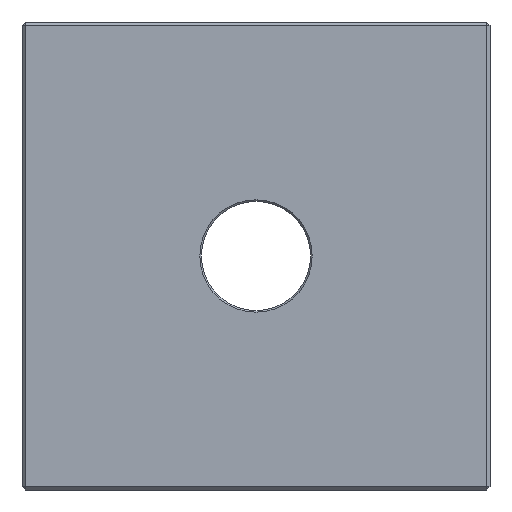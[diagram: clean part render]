
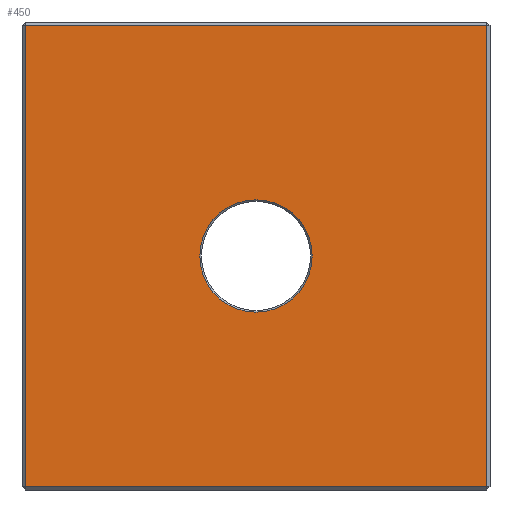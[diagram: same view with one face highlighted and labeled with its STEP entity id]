
A CAD part, left-side view. The second image highlights one B-rep face of the part: STEP entity #450.
In plain terms, the highlighted planar face has unit normal (-1, 0, 0).
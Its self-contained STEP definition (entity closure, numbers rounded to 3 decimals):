
#100 = VERTEX_POINT ( 'NONE', #801 ) ;
#114 = LINE ( 'NONE', #688, #683 ) ;
#118 = DIRECTION ( 'NONE',  ( 0., 0., -1. ) ) ;
#168 = VERTEX_POINT ( 'NONE', #1138 ) ;
#172 = ORIENTED_EDGE ( 'NONE', *, *, #1006, .T. ) ;
#180 = AXIS2_PLACEMENT_3D ( 'NONE', #435, #322, #1131 ) ;
#241 = LINE ( 'NONE', #433, #705 ) ;
#242 = CARTESIAN_POINT ( 'NONE',  ( 0., 29.8, 14.8 ) ) ;
#257 = AXIS2_PLACEMENT_3D ( 'NONE', #524, #710, #620 ) ;
#269 = DIRECTION ( 'NONE',  ( 0., 1., 0. ) ) ;
#272 = CIRCLE ( 'NONE', #180, 3.6 ) ;
#291 = CARTESIAN_POINT ( 'NONE',  ( 0., 15., 3.6 ) ) ;
#294 = VECTOR ( 'NONE', #118, 1000. ) ;
#302 = CARTESIAN_POINT ( 'NONE',  ( 0., 29.8, 15. ) ) ;
#315 = PLANE ( 'NONE',  #257 ) ;
#322 = DIRECTION ( 'NONE',  ( 1., 0., 0. ) ) ;
#350 = EDGE_CURVE ( 'NONE', #879, #100, #114, .T. ) ;
#363 = EDGE_LOOP ( 'NONE', ( #616, #794, #172, #966 ) ) ;
#389 = ORIENTED_EDGE ( 'NONE', *, *, #396, .T. ) ;
#396 = EDGE_CURVE ( 'NONE', #168, #707, #605, .T. ) ;
#406 = VERTEX_POINT ( 'NONE', #494 ) ;
#409 = FACE_BOUND ( 'NONE', #580, .T. ) ;
#433 = CARTESIAN_POINT ( 'NONE',  ( 0., 0.2, 15. ) ) ;
#435 = CARTESIAN_POINT ( 'NONE',  ( 0., 15., 0. ) ) ;
#450 = ADVANCED_FACE ( 'NONE', ( #409, #1127 ), #315, .F. ) ;
#494 = CARTESIAN_POINT ( 'NONE',  ( 0., 0.2, 14.8 ) ) ;
#524 = CARTESIAN_POINT ( 'NONE',  ( 0., 0., 15. ) ) ;
#552 = LINE ( 'NONE', #822, #815 ) ;
#580 = EDGE_LOOP ( 'NONE', ( #777, #389 ) ) ;
#605 = CIRCLE ( 'NONE', #893, 3.6 ) ;
#616 = ORIENTED_EDGE ( 'NONE', *, *, #724, .T. ) ;
#620 = DIRECTION ( 'NONE',  ( 0., 0., -1. ) ) ;
#643 = EDGE_CURVE ( 'NONE', #406, #874, #552, .T. ) ;
#669 = DIRECTION ( 'NONE',  ( 0., -1., 0. ) ) ;
#683 = VECTOR ( 'NONE', #669, 1000. ) ;
#688 = CARTESIAN_POINT ( 'NONE',  ( 0., 0., -14.8 ) ) ;
#693 = CARTESIAN_POINT ( 'NONE',  ( 0., 29.8, -14.8 ) ) ;
#705 = VECTOR ( 'NONE', #899, 1000. ) ;
#707 = VERTEX_POINT ( 'NONE', #291 ) ;
#710 = DIRECTION ( 'NONE',  ( 1., 0., 0. ) ) ;
#724 = EDGE_CURVE ( 'NONE', #874, #879, #938, .T. ) ;
#777 = ORIENTED_EDGE ( 'NONE', *, *, #820, .T. ) ;
#794 = ORIENTED_EDGE ( 'NONE', *, *, #350, .T. ) ;
#801 = CARTESIAN_POINT ( 'NONE',  ( 0., 0.2, -14.8 ) ) ;
#815 = VECTOR ( 'NONE', #269, 1000. ) ;
#820 = EDGE_CURVE ( 'NONE', #707, #168, #272, .T. ) ;
#822 = CARTESIAN_POINT ( 'NONE',  ( 0., 0., 14.8 ) ) ;
#874 = VERTEX_POINT ( 'NONE', #242 ) ;
#879 = VERTEX_POINT ( 'NONE', #693 ) ;
#893 = AXIS2_PLACEMENT_3D ( 'NONE', #1027, #946, #935 ) ;
#899 = DIRECTION ( 'NONE',  ( 0., 0., 1. ) ) ;
#935 = DIRECTION ( 'NONE',  ( 0., 0., -1. ) ) ;
#938 = LINE ( 'NONE', #302, #294 ) ;
#946 = DIRECTION ( 'NONE',  ( 1., 0., 0. ) ) ;
#966 = ORIENTED_EDGE ( 'NONE', *, *, #643, .T. ) ;
#1006 = EDGE_CURVE ( 'NONE', #100, #406, #241, .T. ) ;
#1027 = CARTESIAN_POINT ( 'NONE',  ( 0., 15., 0. ) ) ;
#1127 = FACE_OUTER_BOUND ( 'NONE', #363, .T. ) ;
#1131 = DIRECTION ( 'NONE',  ( 0., 0., -1. ) ) ;
#1138 = CARTESIAN_POINT ( 'NONE',  ( 0., 15., -3.6 ) ) ;
